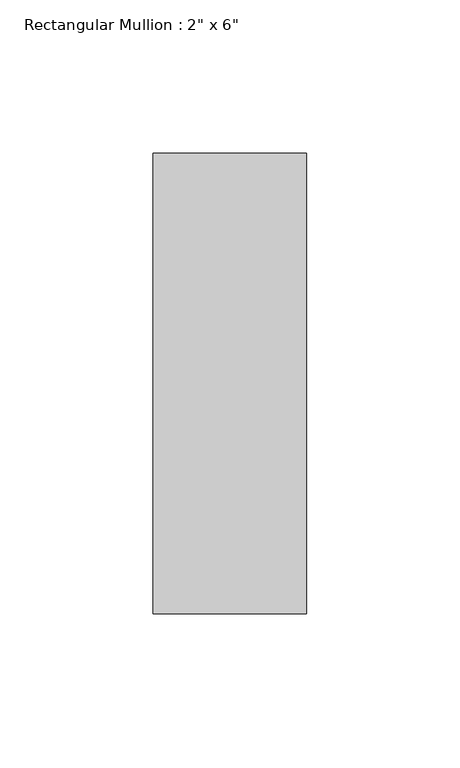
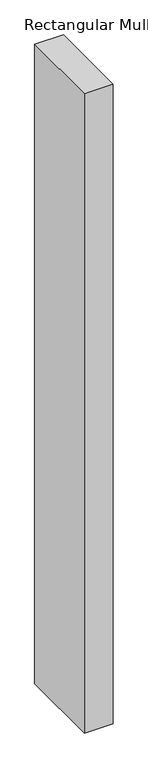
"""IFC4 building model written with IfcOpenShell, lengths in millimetres: member geometry."""

from ifc_helpers import new_model, si_unit, frame, origin, place, context, project, spatial, polyline, outline, extrude, source, transform, mapped, element, save


def member_0ab9fade(model_context):
    return source(origin(), model_context, "Body", "SweptSolid", [
        extrude(outline(polyline([(0.0, 150.0), (0.0, 0.0), (-50.0, 0.0), (-50.0, 150.0), (0.0, 150.0)])), frame((0.0, 0.0, -1175.0000004), z_axis=(0.0, 0.0, 1.0), x_axis=(1.0, 0.0, 0.0)), (0.0, 0.0, 1.0), 1175.0000004),
    ])


if __name__ == "__main__":
    model = new_model("IFC4")
    model_context = context("Model", 3, world=origin())
    ifc_project = project(units=[si_unit("LENGTHUNIT", "METRE", prefix="MILLI")], contexts=[model_context])
    site = spatial("IfcSite", under=ifc_project)
    building = spatial("IfcBuilding", under=site)
    placement = place(None, origin())
    member_shape = member_0ab9fade(model_context)
    element("IfcMember", 1, ObjectType="Rectangular Mullion : 2\" x 6\"", at=placement, inside=building, context=model_context, shape_type="MappedRepresentation", body=[
        mapped(member_shape, transform((0.0, 0.0, 0.0), x_axis=(1.0, 0.0, 0.0), y_axis=(0.0, 1.0, 0.0), z_axis=(0.0, 0.0, 1.0))),
    ])
    save(model, "model.ifc")
